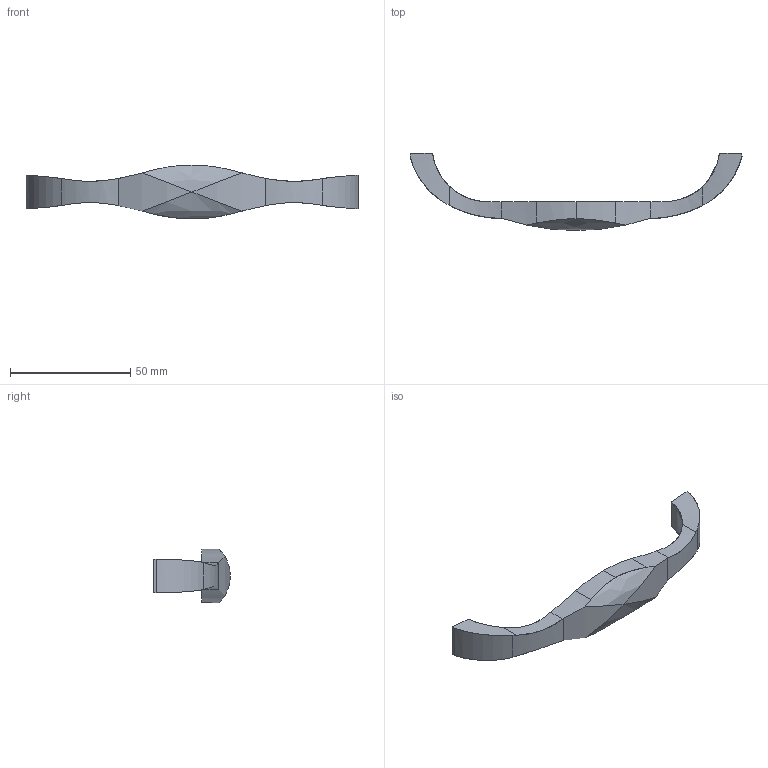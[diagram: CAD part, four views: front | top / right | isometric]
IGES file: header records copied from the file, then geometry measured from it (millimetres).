
Start section: Data from Parasolid IGES Translator 15.0.47, Copyright(c) 2006 Siemens P LM Software. All Rights Reserved.
Global section: file name: 9208057.igs; native system:  By UGS Corp.; preprocessor: XPlus GENERIC/IGES 3.0; author: Noname; organization: Noname; date: 20160303.183305; units: millimetre
Bounding box: 138 x 32 x 22.3 mm (x, y, z)
Surface area: 7003.9 mm2 (no closed solid volume)
Topology: 0 solids, 0 shells, 41 faces, 220 edges, 218 vertices
Faces by surface type: revolution 31, extrusion 10
